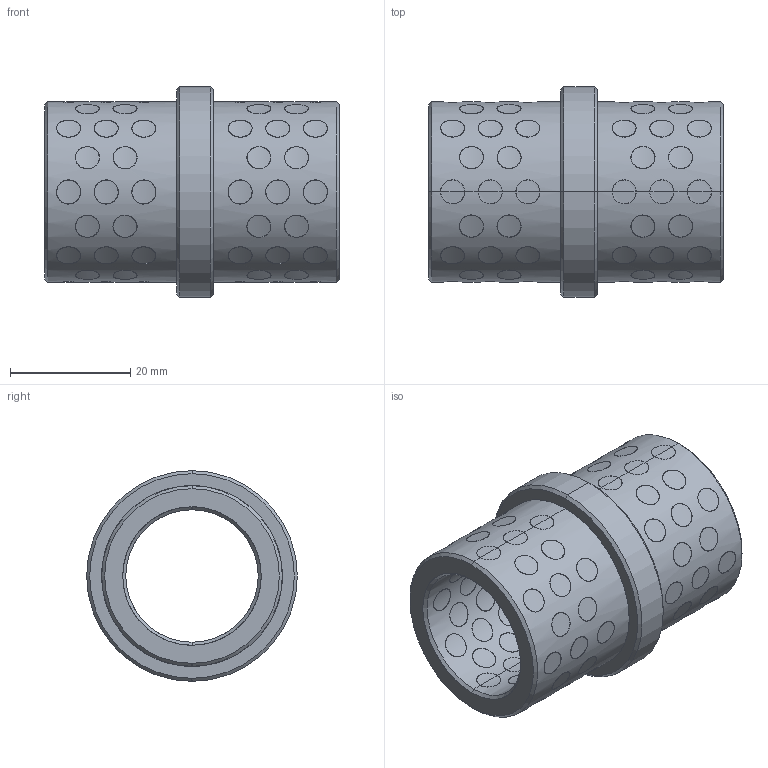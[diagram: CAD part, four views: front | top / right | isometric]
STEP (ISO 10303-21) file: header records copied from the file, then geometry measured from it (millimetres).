
FILE_DESCRIPTION(('CATIA V5 STEP Exchange'),'2;1');
FILE_NAME('C:\Users\Utente\Desktop\3D files G313\G3132227.stp','2020-04-22T07:34:50+00:00',('none'),('none'),'CATIA Version 5 Release 20 GA (IN-10)','CATIA V5 STEP AP203','none');
FILE_SCHEMA(('CONFIG_CONTROL_DESIGN'));
Products named in the file (1): G3132227
Bounding box: 49 x 35 x 35 mm (x, y, z)
Surface area: 17092.8 mm2 (no closed solid volume)
Topology: 0 solids, 528 shells, 528 faces, 2304 edges, 2304 vertices
Faces by surface type: cylinder 512, revolution 12, plane 4
Entity records: 46003 total; most frequent: CARTESIAN_POINT 30062, ORIENTED_EDGE 2304, EDGE_CURVE 2304, VERTEX_POINT 2304, DIRECTION 1867, B_SPLINE_CURVE_WITH_KNOTS 1493, VECTOR 776, LINE 776
